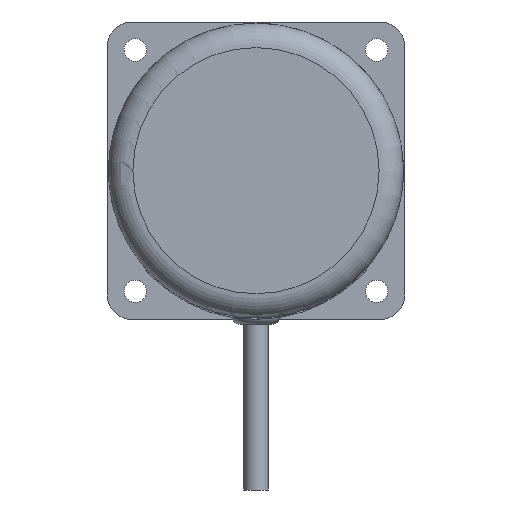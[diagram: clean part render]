
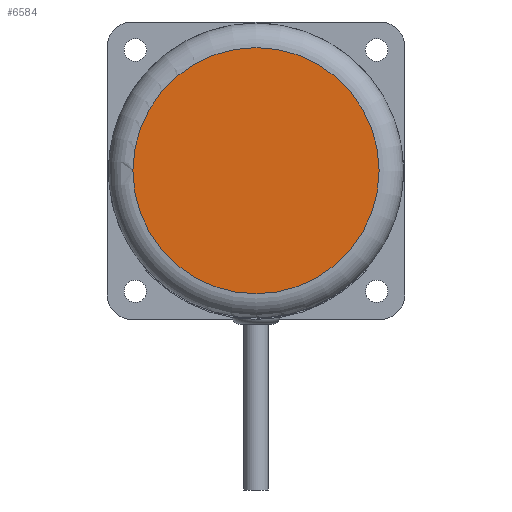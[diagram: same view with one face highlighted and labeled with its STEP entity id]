
A CAD part, left-side view. The second image highlights one B-rep face of the part: STEP entity #6584.
In plain terms, the highlighted planar face has unit normal (-1, 0, 0).
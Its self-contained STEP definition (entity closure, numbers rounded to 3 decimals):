
#301 = FACE_OUTER_BOUND ( 'NONE', #2047, .T. ) ;
#697 = AXIS2_PLACEMENT_3D ( 'NONE', #1435, #5251, #1982 ) ;
#1435 = CARTESIAN_POINT ( 'NONE',  ( -47., 0., 0. ) ) ;
#1982 = DIRECTION ( 'NONE',  ( 0., 0., 1. ) ) ;
#2047 = EDGE_LOOP ( 'NONE', ( #4989 ) ) ;
#2277 = DIRECTION ( 'NONE',  ( -1., 0., 0. ) ) ;
#2528 = CARTESIAN_POINT ( 'NONE',  ( -47., 0., 0. ) ) ;
#2827 = CIRCLE ( 'NONE', #697, 25.25 ) ;
#4144 = EDGE_CURVE ( 'NONE', #4801, #4801, #2827, .T. ) ;
#4801 = VERTEX_POINT ( 'NONE', #5871 ) ;
#4805 = AXIS2_PLACEMENT_3D ( 'NONE', #2528, #2277, #5763 ) ;
#4989 = ORIENTED_EDGE ( 'NONE', *, *, #4144, .T. ) ;
#5251 = DIRECTION ( 'NONE',  ( -1., 0., 0. ) ) ;
#5763 = DIRECTION ( 'NONE',  ( 0., 0., 1. ) ) ;
#5871 = CARTESIAN_POINT ( 'NONE',  ( -47., 0., 25.25 ) ) ;
#6584 = ADVANCED_FACE ( 'NONE', ( #301 ), #6867, .T. ) ;
#6867 = PLANE ( 'NONE',  #4805 ) ;
